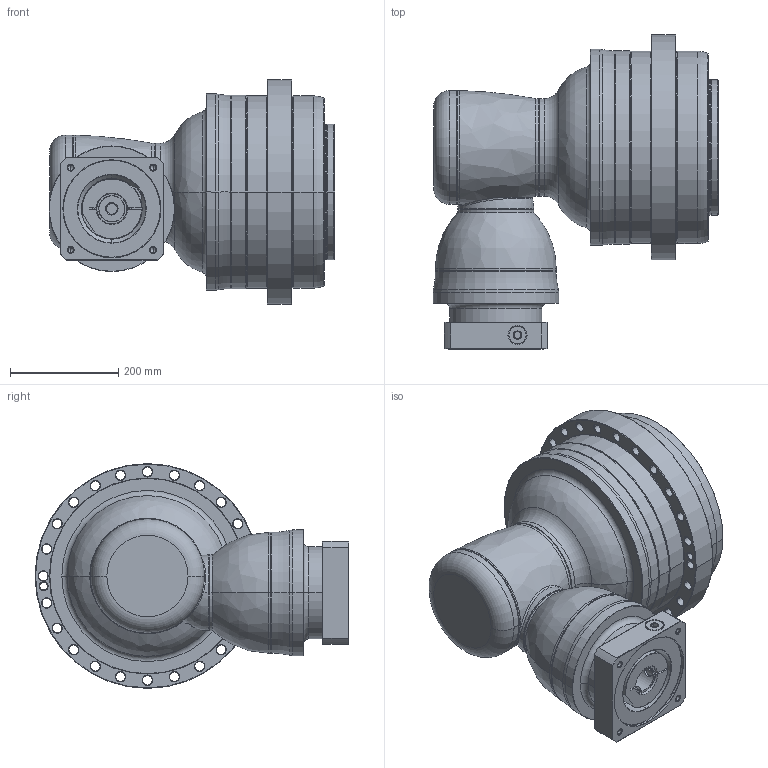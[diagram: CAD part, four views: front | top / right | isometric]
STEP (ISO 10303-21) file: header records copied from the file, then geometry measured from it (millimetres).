
FILE_DESCRIPTION((''),'2;1');
FILE_NAME('APK355_4ST_48-P0409B10201_ASM','2018-10-04T',('D00080'),(''),'PRO/ENGINEER BY PARAMETRIC TECHNOLOGY CORPORATION, 2015240','PRO/ENGINEER BY PARAMETRIC TECHNOLOGY CORPORATION, 2015240','');
FILE_SCHEMA(('CONFIG_CONTROL_DESIGN'));
Length unit declared in the file: millimetre
Products named in the file (13): P1008600002; P1315600001; P1007601001; P1317610601; P1821110001; P0276101003; P0357101103; P1222100001; P0503B00016; P0912556001; P0409B10201; 21711426021; APK355_4ST_48-P0409B10201_ASM
Assembly tree (12 placements, depth 2):
  APK355_4ST_48-P0409B10201_ASM
    P1008600002
    P1315600001
    P1007601001
    P1317610601
    P1821110001
    P0276101003
    P0357101103
    P1222100001
    P0503B00016
    P0912556001
    P0409B10201
    21711426021
Bounding box: 528 x 579.5 x 415 mm (x, y, z)
Volume: 44531981.6 mm3; surface area: 2206345.2 mm2
Topology: 13 solids, 40 shells, 809 faces, 1843 edges, 1107 vertices
Faces by surface type: cylinder 322, cone 230, plane 130, torus 94, bspline 31, sphere 2
Entity records: 29468 total; most frequent: CARTESIAN_POINT 10617, DIRECTION 4339, ORIENTED_EDGE 3488, AXIS2_PLACEMENT_3D 1861, EDGE_CURVE 1799, VERTEX_POINT 1107, CIRCLE 1046, EDGE_LOOP 968
